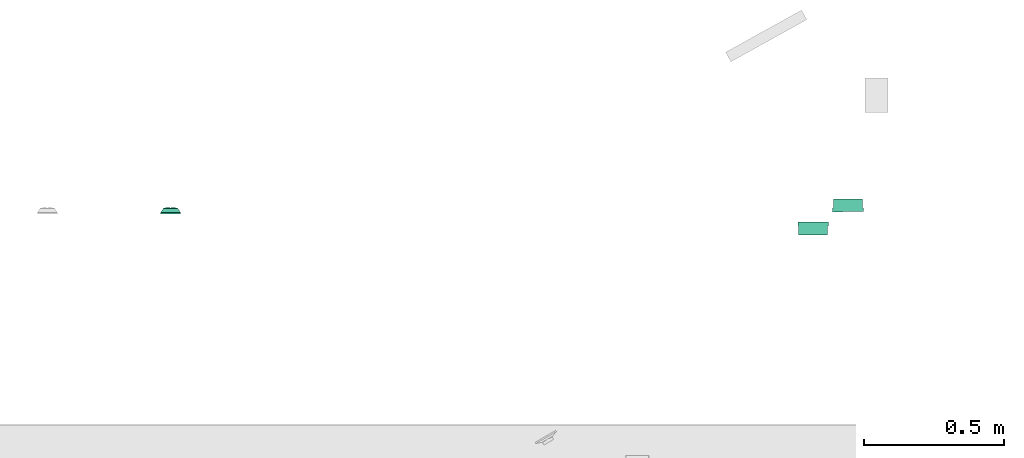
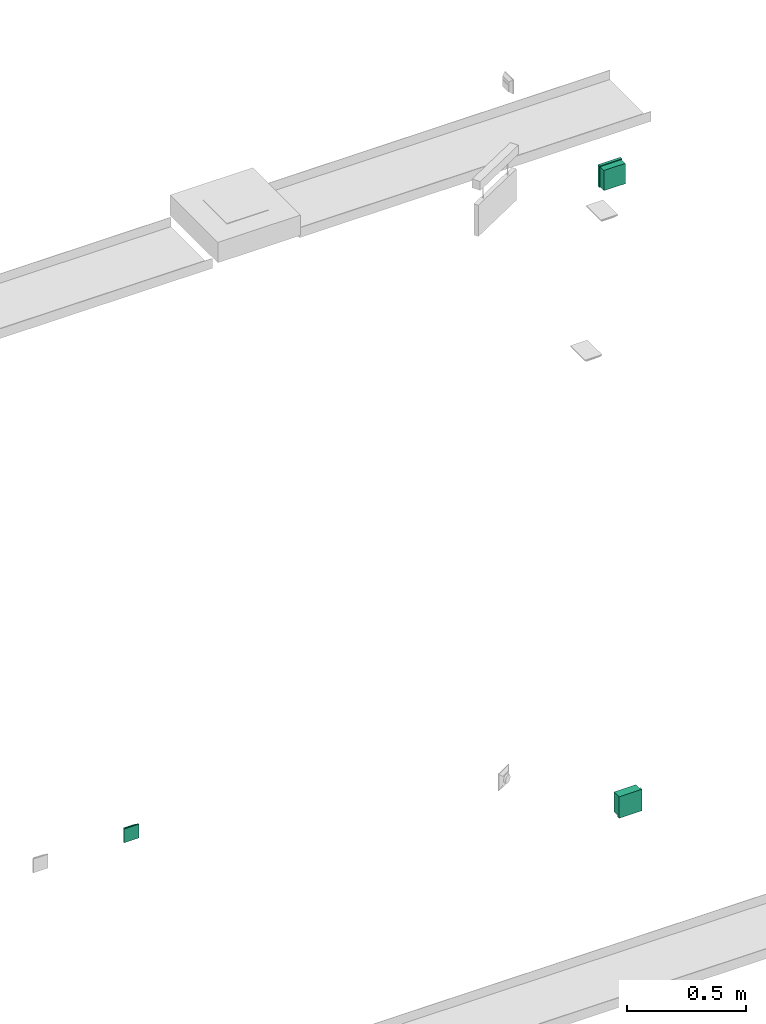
# One storey, part 11 of 24: 2 flow fittings, 1 flow terminal.
"""IFC2X3 building model written with IfcOpenShell, lengths in millimetres."""

from ifc_helpers import new_model, entity, si_unit, converted_unit, derived_unit, direction, frame, origin_with_axes, place, context, subcontext, project, spatial, open_shell, surface_model, source, transform, mapped, type_object, element, save


model = new_model("IFC2X3")

# Units and contexts
model_context = context("Model", 3, precision=0.01, world=frame((0.0, 4.29681676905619e-09, 0.0)), true_north=direction((4.01073788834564e-13, 1.0)))
plan_context = context("Plan", 3, precision=0.01, world=frame((0.0, 4.29681676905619e-09, 0.0)), true_north=direction((4.01073788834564e-13, 1.0)))
body_context = subcontext(model_context, "Body", "Model", "MODEL_VIEW")
ifc_project = project(units=[converted_unit("PLANEANGLEUNIT", "DEGREE", entity("IfcPositiveLengthMeasure", 0.0174532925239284), si_unit("PLANEANGLEUNIT", "RADIAN"), dimensions=[0, 0, 0, 0, 0, 0, 0]), si_unit("AREAUNIT", "SQUARE_METRE"), si_unit("LENGTHUNIT", "METRE", prefix="MILLI"), si_unit("MASSUNIT", "GRAM", prefix="KILO"), si_unit("POWERUNIT", "WATT"), si_unit("PRESSUREUNIT", "PASCAL"), si_unit("FORCEUNIT", "NEWTON", prefix="KILO"), si_unit("ELECTRICVOLTAGEUNIT", "VOLT"), si_unit("ELECTRICCURRENTUNIT", "AMPERE"), si_unit("THERMODYNAMICTEMPERATUREUNIT", "DEGREE_CELSIUS"), si_unit("TIMEUNIT", "SECOND"), si_unit("VOLUMEUNIT", "CUBIC_METRE"), derived_unit("LINEARVELOCITYUNIT", [(si_unit("LENGTHUNIT", "METRE"), 1), (si_unit("TIMEUNIT", "SECOND"), -1)]), derived_unit("VOLUMETRICFLOWRATEUNIT", [(si_unit("VOLUMEUNIT", "CUBIC_METRE"), 1), (si_unit("TIMEUNIT", "SECOND"), -1)]), derived_unit("THERMALTRANSMITTANCEUNIT", [(si_unit("POWERUNIT", "WATT"), 1), (si_unit("THERMODYNAMICTEMPERATUREUNIT", "KELVIN"), -1), (si_unit("AREAUNIT", "SQUARE_METRE"), -1)]), derived_unit("SOUNDPRESSUREUNIT", [(si_unit("PRESSUREUNIT", "PASCAL"), 1)])], contexts=[model_context, plan_context])

# Site, building, storey
site_placement = place(None, frame((0.0, -4.29681676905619e-09, 0.0), z_axis=(0.0, 0.0, 1.0), x_axis=(1.0, 0.0, 0.0)))
site = spatial("IfcSite", under=ifc_project, at=site_placement, Name="ENGM", CompositionType="ELEMENT")
building_placement = place(site_placement, frame((0.0, 4.29681676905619e-09, 0.0), z_axis=(0.0, 0.0, 1.0), x_axis=(1.0, 0.0, 0.0)))
building = spatial("IfcBuilding", under=site, at=building_placement, Name="TH", CompositionType="ELEMENT")
storey_placement = place(building_placement, frame((0.0, 0.0, 210200.0), z_axis=(0.0, 0.0, 1.0), x_axis=(1.0, 0.0, 0.0)))
storey = spatial("IfcBuildingStorey", under=building, at=storey_placement, Name="Nivå F - 0,7 m", CompositionType="ELEMENT", Elevation=210200.0)

# Flow fittings
junction_box_type = type_object("IfcJunctionBoxType", Name="Koblingsboks åpen", PredefinedType="NOTDEFINED")
shared_shape_1 = source(origin_with_axes(), body_context, "Body", "SurfaceModel", [
    surface_model("IfcShellBasedSurfaceModel", [(-55.0, 46.0, 55.0), (-55.0, 32.2, 55.0), (55.0, 32.2, 55.0), (55.0, 46.0, 55.0), (55.0, 46.0, -55.0), (55.0, 32.2, -55.0), (-55.0, 32.2, -55.0), (-55.0, 46.0, -55.0), (-52.0, 32.2, 52.0), (-52.0, 0.0, 52.0), (52.0, 0.0, 52.0), (52.0, 32.2, 52.0), (52.0, 32.2, -52.0), (52.0, 0.0, -52.0), (-52.0, 0.0, -52.0), (-52.0, 32.2, -52.0)], [open_shell([[[0, 1, 2]], [[2, 3, 0]], [[4, 5, 6]], [[6, 7, 4]], [[2, 1, 6]], [[6, 5, 2]], [[3, 2, 5]], [[5, 4, 3]], [[0, 3, 4]], [[4, 7, 0]], [[1, 0, 7]], [[7, 6, 1]], [[8, 9, 10]], [[10, 11, 8]], [[12, 13, 14]], [[14, 15, 12]], [[10, 9, 14]], [[14, 13, 10]], [[11, 10, 13]], [[13, 12, 11]], [[8, 11, 12]], [[12, 15, 8]], [[9, 8, 15]], [[15, 14, 9]]])]),
])
for number, where, z_axis, x_axis in (
    (1, (907752.03037, 477598.08045, 0.0), (0.0, 0.0, 1.0), (-0.999983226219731, -0.00579200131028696, 0.0)),
    (2, (907627.86719, 477469.52, 3300.0), (0.0, 0.0, 1.0), (1.0, 0.0, 0.0)),
):
    element("IfcFlowFitting", number, at=place(storey_placement, frame(where, z_axis=z_axis, x_axis=x_axis)), inside=storey, type_object=junction_box_type, Name="Koblingsboks åpen", context=body_context, shape_type="MappedRepresentation", body=[
        mapped(shared_shape_1, transform((0.0, 0.0, 0.0), scale=1.0)),
    ])

# Flow terminal
outlet_type = type_object("IfcOutletType", Name="Datauttak dobbel Vegg - IKT", PredefinedType="COMMUNICATIONSOUTLET")
shared_shape_2 = source(origin_with_axes(), body_context, "Body", "SurfaceModel", [
    surface_model("IfcShellBasedSurfaceModel", [(35.5, 5.05547, 35.5832), (25.5, 20.05547, 25.5832), (-35.5, 5.05547, 35.5832), (-25.5, 20.05547, 25.5832), (-35.5, 4.94453, 35.41679), (-25.5, 19.94453, 25.41679), (25.5, 19.94453, 25.41679), (35.5, 4.94453, 35.41679), (35.5, 4.94453, -35.41679), (25.5, 19.94453, -25.41679), (-35.5, 4.94453, -35.41679), (-25.5, 19.94453, -25.41679), (-35.5, 5.05547, -35.5832), (-25.5, 20.05547, -25.5832), (25.5, 20.05547, -25.5832), (35.5, 5.05547, -35.5832), (-25.5832, 20.05547, -25.5), (-35.5832, 5.05547, -35.5), (-35.5832, 5.05547, 35.5), (-25.5832, 20.05547, 25.5), (-25.41679, 19.94453, 25.5), (-35.41679, 4.94453, 35.5), (-25.41679, 19.94453, -25.5), (-35.41679, 4.94453, -35.5), (25.41679, 19.94453, -25.5), (35.41679, 4.94453, -35.5), (35.41679, 4.94453, 35.5), (25.41679, 19.94453, 25.5), (25.5832, 20.05547, 25.5), (35.5832, 5.05547, 35.5), (25.5832, 20.05547, -25.5), (35.5832, 5.05547, -35.5), (35.4, 5.0, -35.5), (35.4, 0.0, -35.5), (35.4, 0.0, 35.5), (35.4, 5.0, 35.5), (35.6, 5.0, 35.5), (35.6, 0.0, 35.5), (35.6, 0.0, -35.5), (35.6, 5.0, -35.5), (-35.5, 0.0, -35.6), (-35.5, 5.0, -35.6), (35.5, 5.0, -35.6), (35.5, 0.0, -35.6), (35.5, 0.0, -35.4), (35.5, 5.0, -35.4), (-35.5, 5.0, -35.4), (-35.5, 0.0, -35.4), (-35.6, 5.0, -35.5), (-35.6, 0.0, -35.5), (-35.6, 0.0, 35.5), (-35.6, 5.0, 35.5), (-35.4, 5.0, 35.5), (-35.4, 0.0, 35.5), (-35.4, 0.0, -35.5), (-35.4, 5.0, -35.5), (-35.5, -0.1, -35.5), (35.5, -0.1, -35.5), (35.5, -0.1, 35.5), (-35.5, -0.1, 35.5), (-35.5, 0.1, 35.5), (35.5, 0.1, 35.5), (35.5, 0.1, -35.5), (-35.5, 0.1, -35.5), (-35.5, 0.0, 35.4), (-35.5, 5.0, 35.4), (35.5, 5.0, 35.4), (35.5, 0.0, 35.4), (35.5, 0.0, 35.6), (35.5, 5.0, 35.6), (-35.5, 5.0, 35.6), (-35.5, 0.0, 35.6), (-25.5, 19.9, -25.5), (25.5, 19.9, -25.5), (25.5, 19.9, 25.5), (-25.5, 19.9, 25.5), (-25.5, 20.1, 25.5), (25.5, 20.1, 25.5), (25.5, 20.1, -25.5), (-25.5, 20.1, -25.5), (-17.5, 21.91, -6.5), (-2.5, 21.91, -6.5), (-17.5, 21.91, 8.5), (-2.5, 21.91, 8.5), (-17.5, 22.11, 8.5), (-2.5, 22.11, 8.5), (-17.5, 22.11, -6.5), (-2.5, 22.11, -6.5), (2.5, 21.91, -6.5), (17.5, 21.91, -6.5), (17.5, 21.91, 8.5), (2.5, 21.91, 8.5), (2.5, 22.11, 8.5), (17.5, 22.11, 8.5), (2.5, 22.11, -6.5), (17.5, 22.11, -6.5), (-25.5, 22.0, 25.5), (-25.5, 20.0, 25.5), (25.5, 20.0, 25.5), (25.5, 22.0, 25.5), (25.5, 22.0, 20.5), (25.5, 20.0, 20.5), (-25.5, 20.0, 20.5), (-25.5, 22.0, 20.5), (-25.5, 22.0, 10.5), (-25.5, 20.0, 10.5), (25.5, 20.0, 10.5), (25.5, 22.0, 10.5), (25.5, 22.0, -25.5), (25.5, 20.0, -25.5), (-25.5, 20.0, -25.5), (-25.5, 22.0, -25.5)], [open_shell([[[0, 1, 2]], [[3, 2, 1]], [[4, 5, 6]], [[6, 7, 4]], [[3, 1, 6]], [[6, 5, 3]], [[2, 3, 4]], [[5, 4, 3]], [[0, 2, 7]], [[4, 7, 2]], [[1, 0, 6]], [[7, 6, 0]], [[8, 9, 10]], [[11, 10, 9]], [[12, 13, 14]], [[14, 15, 12]], [[11, 9, 14]], [[14, 13, 11]], [[10, 11, 12]], [[13, 12, 11]], [[8, 10, 12]], [[12, 15, 8]], [[9, 8, 14]], [[15, 14, 8]], [[16, 17, 18]], [[18, 19, 16]], [[20, 21, 22]], [[23, 22, 21]], [[18, 17, 23]], [[23, 21, 18]], [[19, 18, 20]], [[21, 20, 18]], [[16, 19, 20]], [[20, 22, 16]], [[17, 16, 22]], [[22, 23, 17]], [[24, 25, 26]], [[26, 27, 24]], [[28, 29, 30]], [[31, 30, 29]], [[26, 25, 31]], [[31, 29, 26]], [[27, 26, 28]], [[29, 28, 26]], [[24, 27, 28]], [[28, 30, 24]], [[25, 24, 30]], [[30, 31, 25]], [[32, 33, 34]], [[34, 35, 32]], [[36, 37, 38]], [[38, 39, 36]], [[34, 33, 38]], [[38, 37, 34]], [[35, 34, 37]], [[37, 36, 35]], [[32, 35, 36]], [[36, 39, 32]], [[33, 32, 39]], [[39, 38, 33]], [[40, 41, 42]], [[42, 43, 40]], [[44, 45, 46]], [[46, 47, 44]], [[42, 41, 46]], [[46, 45, 42]], [[43, 42, 45]], [[45, 44, 43]], [[40, 43, 44]], [[44, 47, 40]], [[41, 40, 47]], [[47, 46, 41]], [[48, 49, 50]], [[50, 51, 48]], [[52, 53, 54]], [[54, 55, 52]], [[50, 49, 54]], [[54, 53, 50]], [[51, 50, 53]], [[53, 52, 51]], [[48, 51, 52]], [[52, 55, 48]], [[49, 48, 55]], [[55, 54, 49]], [[56, 57, 58]], [[58, 59, 56]], [[60, 61, 62]], [[62, 63, 60]], [[58, 57, 62]], [[62, 61, 58]], [[59, 58, 61]], [[61, 60, 59]], [[56, 59, 60]], [[60, 63, 56]], [[57, 56, 63]], [[63, 62, 57]], [[64, 65, 66]], [[66, 67, 64]], [[68, 69, 70]], [[70, 71, 68]], [[66, 65, 70]], [[70, 69, 66]], [[67, 66, 69]], [[69, 68, 67]], [[64, 67, 68]], [[68, 71, 64]], [[65, 64, 71]], [[71, 70, 65]], [[72, 73, 74]], [[74, 75, 72]], [[76, 77, 78]], [[78, 79, 76]], [[74, 73, 78]], [[78, 77, 74]], [[75, 74, 77]], [[77, 76, 75]], [[72, 75, 76]], [[76, 79, 72]], [[73, 72, 79]], [[79, 78, 73]], [[80, 81, 82]], [[83, 82, 81]], [[84, 85, 86]], [[87, 86, 85]], [[83, 81, 87]], [[87, 85, 83]], [[82, 83, 85]], [[85, 84, 82]], [[80, 82, 84]], [[84, 86, 80]], [[81, 80, 86]], [[86, 87, 81]], [[88, 89, 90]], [[90, 91, 88]], [[92, 93, 94]], [[95, 94, 93]], [[90, 89, 95]], [[95, 93, 90]], [[91, 90, 93]], [[93, 92, 91]], [[88, 91, 92]], [[92, 94, 88]], [[89, 88, 94]], [[94, 95, 89]], [[96, 97, 98]], [[98, 99, 96]], [[100, 101, 102]], [[102, 103, 100]], [[98, 97, 102]], [[102, 101, 98]], [[99, 98, 101]], [[101, 100, 99]], [[96, 99, 100]], [[100, 103, 96]], [[97, 96, 103]], [[103, 102, 97]], [[104, 105, 106]], [[106, 107, 104]], [[108, 109, 110]], [[110, 111, 108]], [[106, 105, 110]], [[110, 109, 106]], [[107, 106, 109]], [[109, 108, 107]], [[104, 107, 108]], [[108, 111, 104]], [[105, 104, 111]], [[111, 110, 105]]])]),
])
flow_terminal_placement = place(storey_placement, frame((905333.4277, 477544.19011, 700.0), z_axis=(0.0, 0.0, 1.0), x_axis=(1.0, 0.0, 0.0)))
element("IfcFlowTerminal", 3, at=flow_terminal_placement, inside=storey, type_object=outlet_type, Name="Datauttak dobbel Vegg - IKT", context=body_context, shape_type="MappedRepresentation", body=[
    mapped(shared_shape_2, transform((0.0, 0.0, 0.0), scale=1.0)),
])

save(model, "model.ifc")
